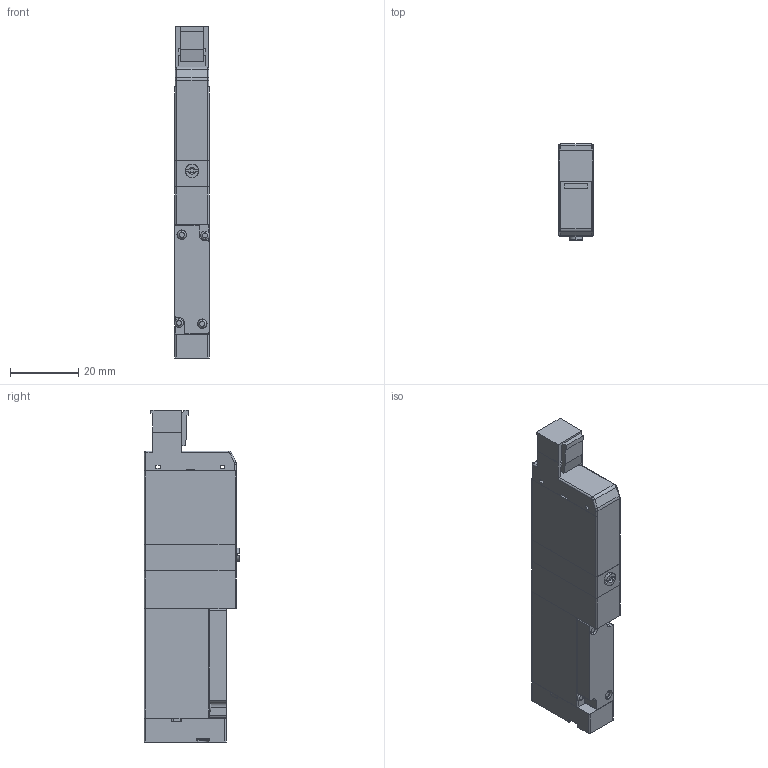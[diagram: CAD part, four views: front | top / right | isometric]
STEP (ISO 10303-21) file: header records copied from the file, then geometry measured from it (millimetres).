
FILE_DESCRIPTION( (''), '2;1');
FILE_NAME ('CVICAD02.13484.F10T0-A1-PS_5630.stp','2020-09-01T14:09:25',(''),(''),'spGate 12.6.6','','');
FILE_SCHEMA (('AUTOMOTIVE_DESIGN'));
Length unit declared in the file: millimetre
Products named in the file (7): Assembly; F10T_Body; F10_Adptor; F_3PortBody; F10_Cap; F_Connector-PS; F10_A1
Assembly tree (6 placements, depth 2):
  Assembly
    F10T_Body
    F10_Adptor
    F_3PortBody
    F10_Cap
    F_Connector-PS
    F10_A1
Bounding box: 10.2 x 28 x 97 mm (x, y, z)
Volume: 22361.8 mm3; surface area: 10377.3 mm2
Topology: 6 solids, 6 shells, 230 faces, 586 edges, 380 vertices
Faces by surface type: plane 129, cylinder 77, bspline 22, sphere 2
Entity records: 12148 total; most frequent: CARTESIAN_POINT 1671, DIRECTION 1181, ORIENTED_EDGE 1168, COLOUR_RGB 820, PRESENTATION_STYLE_ASSIGNMENT 820, STYLED_ITEM 820, EDGE_CURVE 584, DRAUGHTING_PRE_DEFINED_CURVE_FONT 584
